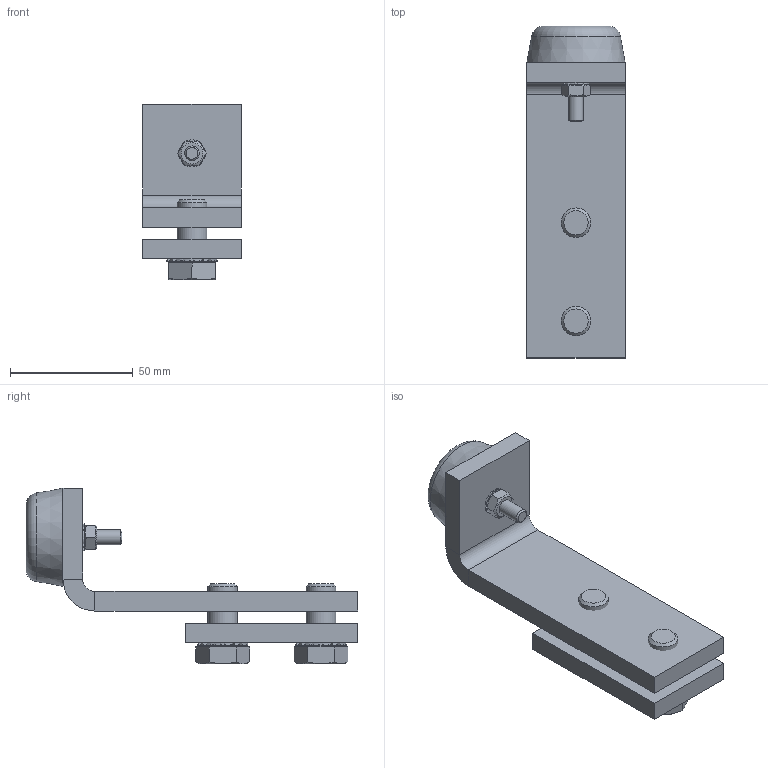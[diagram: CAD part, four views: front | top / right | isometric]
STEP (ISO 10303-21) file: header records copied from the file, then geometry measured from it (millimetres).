
FILE_DESCRIPTION(/* description */ ('Biegeteil mit Gewinde'),/* implementation_level */ '2;1');
FILE_NAME(/* name */ 'Q:\sge-ma\Produktmanagement-STB\STB\Workspace\stp\010336080.stp',/* time_stamp */ '2016-07-21T08:13:37+02:00',/* author */ ('avschreier'),/* organization */ (''),/* preprocessor_version */ 'ST-DEVELOPER v16.1',/* originating_system */ 'Autodesk Inventor 2016',/* authorisation */ '');
FILE_SCHEMA (('CONFIG_CONTROL_DESIGN'));
Length unit declared in the file: millimetre
Products named in the file (9): 337000332; 337000333; 004203041; DIN_933-M12x25_en; DIN_934-M6_en; DIN_933-M6x30_en; DIN_6798-A_6,4_en; DIN_6798-A_13_en; 010336080
Assembly tree (10 placements, depth 2):
  010336080
    337000332
    337000333
    004203041
    DIN_933-M12x25_en  x2
    DIN_934-M6_en
    DIN_933-M6x30_en
    DIN_6798-A_6,4_en
    DIN_6798-A_13_en  x2
Bounding box: 40 x 135 x 71.5 mm (x, y, z)
Volume: 95067.6 mm3; surface area: 34089.3 mm2
Topology: 10 solids, 10 shells, 382 faces, 1027 edges, 672 vertices
Faces by surface type: cylinder 198, plane 153, cone 29, torus 2
Full cylindrical faces by diameter (mm): 4.917 x1, 5.459 x1, 6 x1, 6.4 x1, 6.5 x1, 7 x1, 8.7 x1, 10.376 x2, 11.053 x2, 12 x2, 13 x4, 15 x1, 17.2 x2
Entity records: 8254 total; most frequent: DIRECTION 1472, CARTESIAN_POINT 1467, ORIENTED_EDGE 1328, EDGE_CURVE 664, AXIS2_PLACEMENT_3D 563, VERTEX_POINT 450, LINE 346, VECTOR 346
